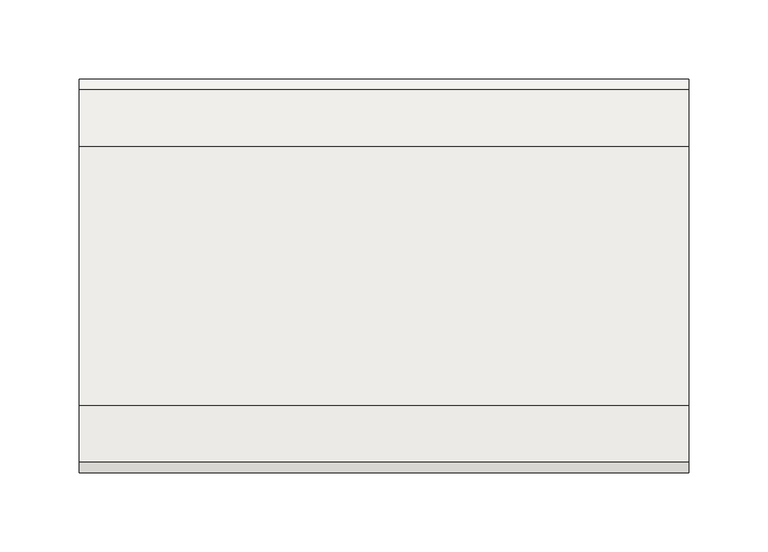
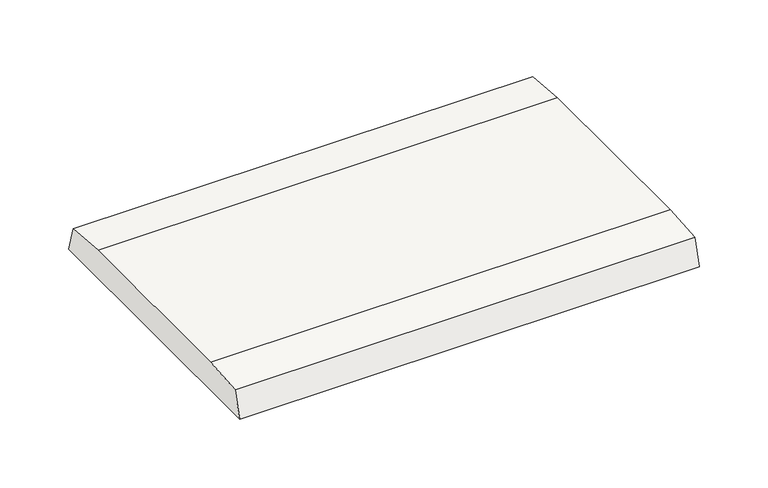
"""IFC4 building model written with IfcOpenShell, lengths in millimetres: slab geometry, ROSA GRES_I25_Inclinación : Pieza I25_Tresor_Java_Anti-Slip."""

from ifc_helpers import new_model, si_unit, point, frame, frame_2d, origin, place, context, project, spatial, polyline, circle_curve, trimmed, segment, composite_curve, outline, extrude, source, transform, mapped, element, save


def slab_a503c661(model_context):
    return source(origin(), model_context, "Body", "SweptSolid", [
        extrude(outline(composite_curve([segment(trimmed(circle_curve(frame_2d((-163.0982439, -695.1998883)), 721.556477), [point((-242.0848264, 22.0203494))], [point((-206.6448784, 25.0413492))], False, "CARTESIAN"), True, "CONTINUOUS"), segment(polyline([(-206.6448784, 25.0413492), (-42.7380732, 25.0413492)]), True, "CONTINUOUS"), segment(trimmed(circle_curve(frame_2d((-86.2847076, -695.1998883)), 721.556477), [point((-42.7380732, 25.0413492))], [point((-6.8503894, 21.9708993))], False, "CARTESIAN"), True, "CONTINUOUS"), segment(polyline([(-6.8503894, 21.9708993), (0.0, 0.0), (-248.9615625, 0.0), (-242.0848264, 22.0203494)]), True, "CONTINUOUS")], self_intersect=False)), frame((0.0, 0.0, 0.0), z_axis=(1.0, 0.0, 0.0), x_axis=(0.0, 1.0, 0.0)), (0.0, 0.0, 1.0), 385.7526715),
    ])


if __name__ == "__main__":
    model = new_model("IFC4")
    model_context = context("Model", 3, world=origin())
    ifc_project = project(units=[si_unit("LENGTHUNIT", "METRE", prefix="MILLI")], contexts=[model_context])
    site = spatial("IfcSite", under=ifc_project)
    building = spatial("IfcBuilding", under=site)
    placement = place(None, origin())
    slab_shape = slab_a503c661(model_context)
    element("IfcSlab", 1, ObjectType="ROSA GRES_I25_Inclinación : Pieza I25_Tresor_Java_Anti-Slip", at=placement, inside=building, context=model_context, shape_type="MappedRepresentation", body=[
        mapped(slab_shape, transform((0.0, 0.0, 0.0), x_axis=(1.0, 0.0, 0.0), y_axis=(0.0, 1.0, 0.0), z_axis=(0.0, 0.0, 1.0))),
    ])
    save(model, "model.ifc")
